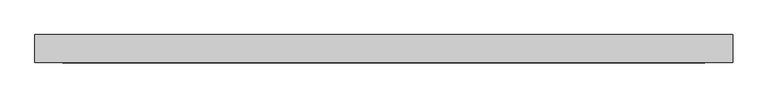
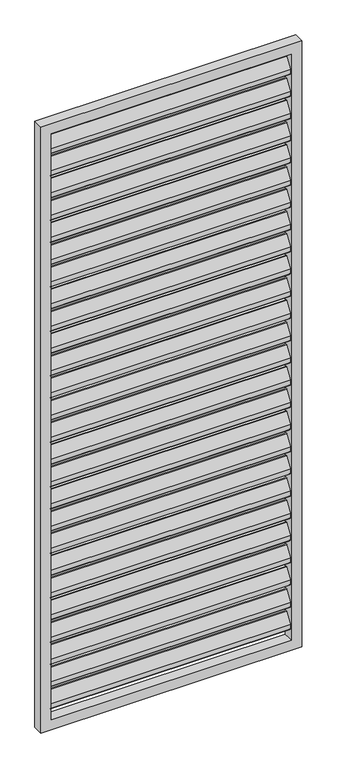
"""IFC4 building model written with IfcOpenShell, lengths in millimetres: proxy geometry."""

from ifc_helpers import new_model, si_unit, point, frame, frame_2d, origin, place, context, project, spatial, polyline, circle_curve, trimmed, segment, composite_curve, outline, extrude, source, transform, mapped, element, save


def generic_models_c7c46cfa(model_context):
    return source(origin(), model_context, "Body", "SweptSolid", [
        extrude(outline(composite_curve([segment(trimmed(circle_curve(frame_2d((12.6675921, 2432.6587719)), 3.0), [point((10.1515804, 2434.292689))], [point((15.6675921, 2432.6587719))], False, "CARTESIAN"), True, "CONTINUOUS"), segment(polyline([(15.6675921, 2432.6587719), (15.6675921, 2414.2979873)]), True, "CONTINUOUS"), segment(trimmed(circle_curve(frame_2d((12.6675921, 2414.2979873)), 3.0), [point((15.6675921, 2414.2979873))], [point((15.1836038, 2412.6640702))], False, "CARTESIAN"), True, "CONTINUOUS"), segment(polyline([(15.1836038, 2412.6640702), (-8.8163962, 2375.707311)]), True, "CONTINUOUS"), segment(trimmed(circle_curve(frame_2d((-11.3324079, 2377.3412281)), 3.0), [point((-8.8163962, 2375.707311))], [point((-14.3324079, 2377.3412281))], False, "CARTESIAN"), True, "CONTINUOUS"), segment(polyline([(-14.3324079, 2377.3412281), (-14.3324079, 2396.5906532), (10.1515804, 2434.292689)]), True, "CONTINUOUS")], self_intersect=False)), frame((-460.0, 0.0, 0.0), z_axis=(1.0, 0.0, 0.0), x_axis=(0.0, 1.0, 0.0)), (0.0, 0.0, 1.0), 920.0),
        extrude(outline(composite_curve([segment(trimmed(circle_curve(frame_2d((12.6675921, 2342.6587719)), 3.0), [point((10.1515804, 2344.292689))], [point((15.6675921, 2342.6587719))], False, "CARTESIAN"), True, "CONTINUOUS"), segment(polyline([(15.6675921, 2342.6587719), (15.6675921, 2324.2979873)]), True, "CONTINUOUS"), segment(trimmed(circle_curve(frame_2d((12.6675921, 2324.2979873)), 3.0), [point((15.6675921, 2324.2979873))], [point((15.1836038, 2322.6640702))], False, "CARTESIAN"), True, "CONTINUOUS"), segment(polyline([(15.1836038, 2322.6640702), (-8.8163962, 2285.707311)]), True, "CONTINUOUS"), segment(trimmed(circle_curve(frame_2d((-11.3324079, 2287.3412281)), 3.0), [point((-8.8163962, 2285.707311))], [point((-14.3324079, 2287.3412281))], False, "CARTESIAN"), True, "CONTINUOUS"), segment(polyline([(-14.3324079, 2287.3412281), (-14.3324079, 2306.5906532), (10.1515804, 2344.292689)]), True, "CONTINUOUS")], self_intersect=False)), frame((-460.0, 0.0, 0.0), z_axis=(1.0, 0.0, 0.0), x_axis=(0.0, 1.0, 0.0)), (0.0, 0.0, 1.0), 920.0),
        extrude(outline(composite_curve([segment(trimmed(circle_curve(frame_2d((12.6675921, 2252.6587719)), 3.0), [point((10.1515804, 2254.292689))], [point((15.6675921, 2252.6587719))], False, "CARTESIAN"), True, "CONTINUOUS"), segment(polyline([(15.6675921, 2252.6587719), (15.6675921, 2234.2979873)]), True, "CONTINUOUS"), segment(trimmed(circle_curve(frame_2d((12.6675921, 2234.2979873)), 3.0), [point((15.6675921, 2234.2979873))], [point((15.1836038, 2232.6640702))], False, "CARTESIAN"), True, "CONTINUOUS"), segment(polyline([(15.1836038, 2232.6640702), (-8.8163962, 2195.707311)]), True, "CONTINUOUS"), segment(trimmed(circle_curve(frame_2d((-11.3324079, 2197.3412281)), 3.0), [point((-8.8163962, 2195.707311))], [point((-14.3324079, 2197.3412281))], False, "CARTESIAN"), True, "CONTINUOUS"), segment(polyline([(-14.3324079, 2197.3412281), (-14.3324079, 2216.5906532), (10.1515804, 2254.292689)]), True, "CONTINUOUS")], self_intersect=False)), frame((-460.0, 0.0, 0.0), z_axis=(1.0, 0.0, 0.0), x_axis=(0.0, 1.0, 0.0)), (0.0, 0.0, 1.0), 920.0),
        extrude(outline(composite_curve([segment(trimmed(circle_curve(frame_2d((12.6675921, 2162.6587719)), 3.0), [point((10.1515804, 2164.292689))], [point((15.6675921, 2162.6587719))], False, "CARTESIAN"), True, "CONTINUOUS"), segment(polyline([(15.6675921, 2162.6587719), (15.6675921, 2144.2979873)]), True, "CONTINUOUS"), segment(trimmed(circle_curve(frame_2d((12.6675921, 2144.2979873)), 3.0), [point((15.6675921, 2144.2979873))], [point((15.1836038, 2142.6640702))], False, "CARTESIAN"), True, "CONTINUOUS"), segment(polyline([(15.1836038, 2142.6640702), (-8.8163962, 2105.707311)]), True, "CONTINUOUS"), segment(trimmed(circle_curve(frame_2d((-11.3324079, 2107.3412281)), 3.0), [point((-8.8163962, 2105.707311))], [point((-14.3324079, 2107.3412281))], False, "CARTESIAN"), True, "CONTINUOUS"), segment(polyline([(-14.3324079, 2107.3412281), (-14.3324079, 2126.5906532), (10.1515804, 2164.292689)]), True, "CONTINUOUS")], self_intersect=False)), frame((-460.0, 0.0, 0.0), z_axis=(1.0, 0.0, 0.0), x_axis=(0.0, 1.0, 0.0)), (0.0, 0.0, 1.0), 920.0),
        extrude(outline(composite_curve([segment(trimmed(circle_curve(frame_2d((12.6675921, 2072.6587719)), 3.0), [point((10.1515804, 2074.292689))], [point((15.6675921, 2072.6587719))], False, "CARTESIAN"), True, "CONTINUOUS"), segment(polyline([(15.6675921, 2072.6587719), (15.6675921, 2054.2979873)]), True, "CONTINUOUS"), segment(trimmed(circle_curve(frame_2d((12.6675921, 2054.2979873)), 3.0), [point((15.6675921, 2054.2979873))], [point((15.1836038, 2052.6640702))], False, "CARTESIAN"), True, "CONTINUOUS"), segment(polyline([(15.1836038, 2052.6640702), (-8.8163962, 2015.707311)]), True, "CONTINUOUS"), segment(trimmed(circle_curve(frame_2d((-11.3324079, 2017.3412281)), 3.0), [point((-8.8163962, 2015.707311))], [point((-14.3324079, 2017.3412281))], False, "CARTESIAN"), True, "CONTINUOUS"), segment(polyline([(-14.3324079, 2017.3412281), (-14.3324079, 2036.5906532), (10.1515804, 2074.292689)]), True, "CONTINUOUS")], self_intersect=False)), frame((-460.0, 0.0, 0.0), z_axis=(1.0, 0.0, 0.0), x_axis=(0.0, 1.0, 0.0)), (0.0, 0.0, 1.0), 920.0),
        extrude(outline(composite_curve([segment(trimmed(circle_curve(frame_2d((12.6675921, 1982.6587719)), 3.0), [point((10.1515804, 1984.292689))], [point((15.6675921, 1982.6587719))], False, "CARTESIAN"), True, "CONTINUOUS"), segment(polyline([(15.6675921, 1982.6587719), (15.6675921, 1964.2979873)]), True, "CONTINUOUS"), segment(trimmed(circle_curve(frame_2d((12.6675921, 1964.2979873)), 3.0), [point((15.6675921, 1964.2979873))], [point((15.1836038, 1962.6640702))], False, "CARTESIAN"), True, "CONTINUOUS"), segment(polyline([(15.1836038, 1962.6640702), (-8.8163962, 1925.707311)]), True, "CONTINUOUS"), segment(trimmed(circle_curve(frame_2d((-11.3324079, 1927.3412281)), 3.0), [point((-8.8163962, 1925.707311))], [point((-14.3324079, 1927.3412281))], False, "CARTESIAN"), True, "CONTINUOUS"), segment(polyline([(-14.3324079, 1927.3412281), (-14.3324079, 1946.5906532), (10.1515804, 1984.292689)]), True, "CONTINUOUS")], self_intersect=False)), frame((-460.0, 0.0, 0.0), z_axis=(1.0, 0.0, 0.0), x_axis=(0.0, 1.0, 0.0)), (0.0, 0.0, 1.0), 920.0),
        extrude(outline(composite_curve([segment(trimmed(circle_curve(frame_2d((12.6675921, 1892.6587719)), 3.0), [point((10.1515804, 1894.292689))], [point((15.6675921, 1892.6587719))], False, "CARTESIAN"), True, "CONTINUOUS"), segment(polyline([(15.6675921, 1892.6587719), (15.6675921, 1874.2979873)]), True, "CONTINUOUS"), segment(trimmed(circle_curve(frame_2d((12.6675921, 1874.2979873)), 3.0), [point((15.6675921, 1874.2979873))], [point((15.1836038, 1872.6640702))], False, "CARTESIAN"), True, "CONTINUOUS"), segment(polyline([(15.1836038, 1872.6640702), (-8.8163962, 1835.707311)]), True, "CONTINUOUS"), segment(trimmed(circle_curve(frame_2d((-11.3324079, 1837.3412281)), 3.0), [point((-8.8163962, 1835.707311))], [point((-14.3324079, 1837.3412281))], False, "CARTESIAN"), True, "CONTINUOUS"), segment(polyline([(-14.3324079, 1837.3412281), (-14.3324079, 1856.5906532), (10.1515804, 1894.292689)]), True, "CONTINUOUS")], self_intersect=False)), frame((-460.0, 0.0, 0.0), z_axis=(1.0, 0.0, 0.0), x_axis=(0.0, 1.0, 0.0)), (0.0, 0.0, 1.0), 920.0),
        extrude(outline(composite_curve([segment(trimmed(circle_curve(frame_2d((12.6675921, 1802.6587719)), 3.0), [point((10.1515804, 1804.292689))], [point((15.6675921, 1802.6587719))], False, "CARTESIAN"), True, "CONTINUOUS"), segment(polyline([(15.6675921, 1802.6587719), (15.6675921, 1784.2979873)]), True, "CONTINUOUS"), segment(trimmed(circle_curve(frame_2d((12.6675921, 1784.2979873)), 3.0), [point((15.6675921, 1784.2979873))], [point((15.1836038, 1782.6640702))], False, "CARTESIAN"), True, "CONTINUOUS"), segment(polyline([(15.1836038, 1782.6640702), (-8.8163962, 1745.707311)]), True, "CONTINUOUS"), segment(trimmed(circle_curve(frame_2d((-11.3324079, 1747.3412281)), 3.0), [point((-8.8163962, 1745.707311))], [point((-14.3324079, 1747.3412281))], False, "CARTESIAN"), True, "CONTINUOUS"), segment(polyline([(-14.3324079, 1747.3412281), (-14.3324079, 1766.5906532), (10.1515804, 1804.292689)]), True, "CONTINUOUS")], self_intersect=False)), frame((-460.0, 0.0, 0.0), z_axis=(1.0, 0.0, 0.0), x_axis=(0.0, 1.0, 0.0)), (0.0, 0.0, 1.0), 920.0),
        extrude(outline(composite_curve([segment(trimmed(circle_curve(frame_2d((12.6675921, 1712.6587719)), 3.0), [point((10.1515804, 1714.292689))], [point((15.6675921, 1712.6587719))], False, "CARTESIAN"), True, "CONTINUOUS"), segment(polyline([(15.6675921, 1712.6587719), (15.6675921, 1694.2979873)]), True, "CONTINUOUS"), segment(trimmed(circle_curve(frame_2d((12.6675921, 1694.2979873)), 3.0), [point((15.6675921, 1694.2979873))], [point((15.1836038, 1692.6640702))], False, "CARTESIAN"), True, "CONTINUOUS"), segment(polyline([(15.1836038, 1692.6640702), (-8.8163962, 1655.707311)]), True, "CONTINUOUS"), segment(trimmed(circle_curve(frame_2d((-11.3324079, 1657.3412281)), 3.0), [point((-8.8163962, 1655.707311))], [point((-14.3324079, 1657.3412281))], False, "CARTESIAN"), True, "CONTINUOUS"), segment(polyline([(-14.3324079, 1657.3412281), (-14.3324079, 1676.5906532), (10.1515804, 1714.292689)]), True, "CONTINUOUS")], self_intersect=False)), frame((-460.0, 0.0, 0.0), z_axis=(1.0, 0.0, 0.0), x_axis=(0.0, 1.0, 0.0)), (0.0, 0.0, 1.0), 920.0),
        extrude(outline(composite_curve([segment(trimmed(circle_curve(frame_2d((12.6675921, 1622.6587719)), 3.0), [point((10.1515804, 1624.292689))], [point((15.6675921, 1622.6587719))], False, "CARTESIAN"), True, "CONTINUOUS"), segment(polyline([(15.6675921, 1622.6587719), (15.6675921, 1604.2979873)]), True, "CONTINUOUS"), segment(trimmed(circle_curve(frame_2d((12.6675921, 1604.2979873)), 3.0), [point((15.6675921, 1604.2979873))], [point((15.1836038, 1602.6640702))], False, "CARTESIAN"), True, "CONTINUOUS"), segment(polyline([(15.1836038, 1602.6640702), (-8.8163962, 1565.707311)]), True, "CONTINUOUS"), segment(trimmed(circle_curve(frame_2d((-11.3324079, 1567.3412281)), 3.0), [point((-8.8163962, 1565.707311))], [point((-14.3324079, 1567.3412281))], False, "CARTESIAN"), True, "CONTINUOUS"), segment(polyline([(-14.3324079, 1567.3412281), (-14.3324079, 1586.5906532), (10.1515804, 1624.292689)]), True, "CONTINUOUS")], self_intersect=False)), frame((-460.0, 0.0, 0.0), z_axis=(1.0, 0.0, 0.0), x_axis=(0.0, 1.0, 0.0)), (0.0, 0.0, 1.0), 920.0),
        extrude(outline(composite_curve([segment(trimmed(circle_curve(frame_2d((12.6675921, 1532.6587719)), 3.0), [point((10.1515804, 1534.292689))], [point((15.6675921, 1532.6587719))], False, "CARTESIAN"), True, "CONTINUOUS"), segment(polyline([(15.6675921, 1532.6587719), (15.6675921, 1514.2979873)]), True, "CONTINUOUS"), segment(trimmed(circle_curve(frame_2d((12.6675921, 1514.2979873)), 3.0), [point((15.6675921, 1514.2979873))], [point((15.1836038, 1512.6640702))], False, "CARTESIAN"), True, "CONTINUOUS"), segment(polyline([(15.1836038, 1512.6640702), (-8.8163962, 1475.707311)]), True, "CONTINUOUS"), segment(trimmed(circle_curve(frame_2d((-11.3324079, 1477.3412281)), 3.0), [point((-8.8163962, 1475.707311))], [point((-14.3324079, 1477.3412281))], False, "CARTESIAN"), True, "CONTINUOUS"), segment(polyline([(-14.3324079, 1477.3412281), (-14.3324079, 1496.5906532), (10.1515804, 1534.292689)]), True, "CONTINUOUS")], self_intersect=False)), frame((-460.0, 0.0, 0.0), z_axis=(1.0, 0.0, 0.0), x_axis=(0.0, 1.0, 0.0)), (0.0, 0.0, 1.0), 920.0),
        extrude(outline(composite_curve([segment(trimmed(circle_curve(frame_2d((12.6675921, 1442.6587719)), 3.0), [point((10.1515804, 1444.292689))], [point((15.6675921, 1442.6587719))], False, "CARTESIAN"), True, "CONTINUOUS"), segment(polyline([(15.6675921, 1442.6587719), (15.6675921, 1424.2979873)]), True, "CONTINUOUS"), segment(trimmed(circle_curve(frame_2d((12.6675921, 1424.2979873)), 3.0), [point((15.6675921, 1424.2979873))], [point((15.1836038, 1422.6640702))], False, "CARTESIAN"), True, "CONTINUOUS"), segment(polyline([(15.1836038, 1422.6640702), (-8.8163962, 1385.707311)]), True, "CONTINUOUS"), segment(trimmed(circle_curve(frame_2d((-11.3324079, 1387.3412281)), 3.0), [point((-8.8163962, 1385.707311))], [point((-14.3324079, 1387.3412281))], False, "CARTESIAN"), True, "CONTINUOUS"), segment(polyline([(-14.3324079, 1387.3412281), (-14.3324079, 1406.5906532), (10.1515804, 1444.292689)]), True, "CONTINUOUS")], self_intersect=False)), frame((-460.0, 0.0, 0.0), z_axis=(1.0, 0.0, 0.0), x_axis=(0.0, 1.0, 0.0)), (0.0, 0.0, 1.0), 920.0),
        extrude(outline(composite_curve([segment(trimmed(circle_curve(frame_2d((12.6675921, 1352.6587719)), 3.0), [point((10.1515804, 1354.292689))], [point((15.6675921, 1352.6587719))], False, "CARTESIAN"), True, "CONTINUOUS"), segment(polyline([(15.6675921, 1352.6587719), (15.6675921, 1334.2979873)]), True, "CONTINUOUS"), segment(trimmed(circle_curve(frame_2d((12.6675921, 1334.2979873)), 3.0), [point((15.6675921, 1334.2979873))], [point((15.1836038, 1332.6640702))], False, "CARTESIAN"), True, "CONTINUOUS"), segment(polyline([(15.1836038, 1332.6640702), (-8.8163962, 1295.707311)]), True, "CONTINUOUS"), segment(trimmed(circle_curve(frame_2d((-11.3324079, 1297.3412281)), 3.0), [point((-8.8163962, 1295.707311))], [point((-14.3324079, 1297.3412281))], False, "CARTESIAN"), True, "CONTINUOUS"), segment(polyline([(-14.3324079, 1297.3412281), (-14.3324079, 1316.5906532), (10.1515804, 1354.292689)]), True, "CONTINUOUS")], self_intersect=False)), frame((-460.0, 0.0, 0.0), z_axis=(1.0, 0.0, 0.0), x_axis=(0.0, 1.0, 0.0)), (0.0, 0.0, 1.0), 920.0),
        extrude(outline(composite_curve([segment(trimmed(circle_curve(frame_2d((12.6675921, 1262.6587719)), 3.0), [point((10.1515804, 1264.292689))], [point((15.6675921, 1262.6587719))], False, "CARTESIAN"), True, "CONTINUOUS"), segment(polyline([(15.6675921, 1262.6587719), (15.6675921, 1244.2979873)]), True, "CONTINUOUS"), segment(trimmed(circle_curve(frame_2d((12.6675921, 1244.2979873)), 3.0), [point((15.6675921, 1244.2979873))], [point((15.1836038, 1242.6640702))], False, "CARTESIAN"), True, "CONTINUOUS"), segment(polyline([(15.1836038, 1242.6640702), (-8.8163962, 1205.707311)]), True, "CONTINUOUS"), segment(trimmed(circle_curve(frame_2d((-11.3324079, 1207.3412281)), 3.0), [point((-8.8163962, 1205.707311))], [point((-14.3324079, 1207.3412281))], False, "CARTESIAN"), True, "CONTINUOUS"), segment(polyline([(-14.3324079, 1207.3412281), (-14.3324079, 1226.5906532), (10.1515804, 1264.292689)]), True, "CONTINUOUS")], self_intersect=False)), frame((-460.0, 0.0, 0.0), z_axis=(1.0, 0.0, 0.0), x_axis=(0.0, 1.0, 0.0)), (0.0, 0.0, 1.0), 920.0),
        extrude(outline(composite_curve([segment(trimmed(circle_curve(frame_2d((12.6675921, 1172.6587719)), 3.0), [point((10.1515804, 1174.292689))], [point((15.6675921, 1172.6587719))], False, "CARTESIAN"), True, "CONTINUOUS"), segment(polyline([(15.6675921, 1172.6587719), (15.6675921, 1154.2979873)]), True, "CONTINUOUS"), segment(trimmed(circle_curve(frame_2d((12.6675921, 1154.2979873)), 3.0), [point((15.6675921, 1154.2979873))], [point((15.1836038, 1152.6640702))], False, "CARTESIAN"), True, "CONTINUOUS"), segment(polyline([(15.1836038, 1152.6640702), (-8.8163962, 1115.707311)]), True, "CONTINUOUS"), segment(trimmed(circle_curve(frame_2d((-11.3324079, 1117.3412281)), 3.0), [point((-8.8163962, 1115.707311))], [point((-14.3324079, 1117.3412281))], False, "CARTESIAN"), True, "CONTINUOUS"), segment(polyline([(-14.3324079, 1117.3412281), (-14.3324079, 1136.5906532), (10.1515804, 1174.292689)]), True, "CONTINUOUS")], self_intersect=False)), frame((-460.0, 0.0, 0.0), z_axis=(1.0, 0.0, 0.0), x_axis=(0.0, 1.0, 0.0)), (0.0, 0.0, 1.0), 920.0),
        extrude(outline(composite_curve([segment(trimmed(circle_curve(frame_2d((12.6675921, 1082.6587719)), 3.0), [point((10.1515804, 1084.292689))], [point((15.6675921, 1082.6587719))], False, "CARTESIAN"), True, "CONTINUOUS"), segment(polyline([(15.6675921, 1082.6587719), (15.6675921, 1064.2979873)]), True, "CONTINUOUS"), segment(trimmed(circle_curve(frame_2d((12.6675921, 1064.2979873)), 3.0), [point((15.6675921, 1064.2979873))], [point((15.1836038, 1062.6640702))], False, "CARTESIAN"), True, "CONTINUOUS"), segment(polyline([(15.1836038, 1062.6640702), (-8.8163962, 1025.707311)]), True, "CONTINUOUS"), segment(trimmed(circle_curve(frame_2d((-11.3324079, 1027.3412281)), 3.0), [point((-8.8163962, 1025.707311))], [point((-14.3324079, 1027.3412281))], False, "CARTESIAN"), True, "CONTINUOUS"), segment(polyline([(-14.3324079, 1027.3412281), (-14.3324079, 1046.5906532), (10.1515804, 1084.292689)]), True, "CONTINUOUS")], self_intersect=False)), frame((-460.0, 0.0, 0.0), z_axis=(1.0, 0.0, 0.0), x_axis=(0.0, 1.0, 0.0)), (0.0, 0.0, 1.0), 920.0),
        extrude(outline(composite_curve([segment(trimmed(circle_curve(frame_2d((12.6675921, 992.6587719)), 3.0), [point((10.1515804, 994.292689))], [point((15.6675921, 992.6587719))], False, "CARTESIAN"), True, "CONTINUOUS"), segment(polyline([(15.6675921, 992.6587719), (15.6675921, 974.2979873)]), True, "CONTINUOUS"), segment(trimmed(circle_curve(frame_2d((12.6675921, 974.2979873)), 3.0), [point((15.6675921, 974.2979873))], [point((15.1836038, 972.6640702))], False, "CARTESIAN"), True, "CONTINUOUS"), segment(polyline([(15.1836038, 972.6640702), (-8.8163962, 935.707311)]), True, "CONTINUOUS"), segment(trimmed(circle_curve(frame_2d((-11.3324079, 937.3412281)), 3.0), [point((-8.8163962, 935.707311))], [point((-14.3324079, 937.3412281))], False, "CARTESIAN"), True, "CONTINUOUS"), segment(polyline([(-14.3324079, 937.3412281), (-14.3324079, 956.5906532), (10.1515804, 994.292689)]), True, "CONTINUOUS")], self_intersect=False)), frame((-460.0, 0.0, 0.0), z_axis=(1.0, 0.0, 0.0), x_axis=(0.0, 1.0, 0.0)), (0.0, 0.0, 1.0), 920.0),
        extrude(outline(composite_curve([segment(trimmed(circle_curve(frame_2d((12.6675921, 902.6587719)), 3.0), [point((10.1515804, 904.292689))], [point((15.6675921, 902.6587719))], False, "CARTESIAN"), True, "CONTINUOUS"), segment(polyline([(15.6675921, 902.6587719), (15.6675921, 884.2979873)]), True, "CONTINUOUS"), segment(trimmed(circle_curve(frame_2d((12.6675921, 884.2979873)), 3.0), [point((15.6675921, 884.2979873))], [point((15.1836038, 882.6640702))], False, "CARTESIAN"), True, "CONTINUOUS"), segment(polyline([(15.1836038, 882.6640702), (-8.8163962, 845.707311)]), True, "CONTINUOUS"), segment(trimmed(circle_curve(frame_2d((-11.3324079, 847.3412281)), 3.0), [point((-8.8163962, 845.707311))], [point((-14.3324079, 847.3412281))], False, "CARTESIAN"), True, "CONTINUOUS"), segment(polyline([(-14.3324079, 847.3412281), (-14.3324079, 866.5906532), (10.1515804, 904.292689)]), True, "CONTINUOUS")], self_intersect=False)), frame((-460.0, 0.0, 0.0), z_axis=(1.0, 0.0, 0.0), x_axis=(0.0, 1.0, 0.0)), (0.0, 0.0, 1.0), 920.0),
        extrude(outline(composite_curve([segment(trimmed(circle_curve(frame_2d((12.6675921, 812.6587719)), 3.0), [point((10.1515804, 814.292689))], [point((15.6675921, 812.6587719))], False, "CARTESIAN"), True, "CONTINUOUS"), segment(polyline([(15.6675921, 812.6587719), (15.6675921, 794.2979873)]), True, "CONTINUOUS"), segment(trimmed(circle_curve(frame_2d((12.6675921, 794.2979873)), 3.0), [point((15.6675921, 794.2979873))], [point((15.1836038, 792.6640702))], False, "CARTESIAN"), True, "CONTINUOUS"), segment(polyline([(15.1836038, 792.6640702), (-8.8163962, 755.707311)]), True, "CONTINUOUS"), segment(trimmed(circle_curve(frame_2d((-11.3324079, 757.3412281)), 3.0), [point((-8.8163962, 755.707311))], [point((-14.3324079, 757.3412281))], False, "CARTESIAN"), True, "CONTINUOUS"), segment(polyline([(-14.3324079, 757.3412281), (-14.3324079, 776.5906532), (10.1515804, 814.292689)]), True, "CONTINUOUS")], self_intersect=False)), frame((-460.0, 0.0, 0.0), z_axis=(1.0, 0.0, 0.0), x_axis=(0.0, 1.0, 0.0)), (0.0, 0.0, 1.0), 920.0),
        extrude(outline(composite_curve([segment(trimmed(circle_curve(frame_2d((12.6675921, 722.6587719)), 3.0), [point((10.1515804, 724.292689))], [point((15.6675921, 722.6587719))], False, "CARTESIAN"), True, "CONTINUOUS"), segment(polyline([(15.6675921, 722.6587719), (15.6675921, 704.2979873)]), True, "CONTINUOUS"), segment(trimmed(circle_curve(frame_2d((12.6675921, 704.2979873)), 3.0), [point((15.6675921, 704.2979873))], [point((15.1836038, 702.6640702))], False, "CARTESIAN"), True, "CONTINUOUS"), segment(polyline([(15.1836038, 702.6640702), (-8.8163962, 665.707311)]), True, "CONTINUOUS"), segment(trimmed(circle_curve(frame_2d((-11.3324079, 667.3412281)), 3.0), [point((-8.8163962, 665.707311))], [point((-14.3324079, 667.3412281))], False, "CARTESIAN"), True, "CONTINUOUS"), segment(polyline([(-14.3324079, 667.3412281), (-14.3324079, 686.5906532), (10.1515804, 724.292689)]), True, "CONTINUOUS")], self_intersect=False)), frame((-460.0, 0.0, 0.0), z_axis=(1.0, 0.0, 0.0), x_axis=(0.0, 1.0, 0.0)), (0.0, 0.0, 1.0), 920.0),
        extrude(outline(composite_curve([segment(trimmed(circle_curve(frame_2d((12.6675921, 632.6587719)), 3.0), [point((10.1515804, 634.292689))], [point((15.6675921, 632.6587719))], False, "CARTESIAN"), True, "CONTINUOUS"), segment(polyline([(15.6675921, 632.6587719), (15.6675921, 614.2979873)]), True, "CONTINUOUS"), segment(trimmed(circle_curve(frame_2d((12.6675921, 614.2979873)), 3.0), [point((15.6675921, 614.2979873))], [point((15.1836038, 612.6640702))], False, "CARTESIAN"), True, "CONTINUOUS"), segment(polyline([(15.1836038, 612.6640702), (-8.8163962, 575.707311)]), True, "CONTINUOUS"), segment(trimmed(circle_curve(frame_2d((-11.3324079, 577.3412281)), 3.0), [point((-8.8163962, 575.707311))], [point((-14.3324079, 577.3412281))], False, "CARTESIAN"), True, "CONTINUOUS"), segment(polyline([(-14.3324079, 577.3412281), (-14.3324079, 596.5906532), (10.1515804, 634.292689)]), True, "CONTINUOUS")], self_intersect=False)), frame((-460.0, 0.0, 0.0), z_axis=(1.0, 0.0, 0.0), x_axis=(0.0, 1.0, 0.0)), (0.0, 0.0, 1.0), 920.0),
        extrude(outline(composite_curve([segment(trimmed(circle_curve(frame_2d((12.6675921, 542.6587719)), 3.0), [point((10.1515804, 544.292689))], [point((15.6675921, 542.6587719))], False, "CARTESIAN"), True, "CONTINUOUS"), segment(polyline([(15.6675921, 542.6587719), (15.6675921, 524.2979873)]), True, "CONTINUOUS"), segment(trimmed(circle_curve(frame_2d((12.6675921, 524.2979873)), 3.0), [point((15.6675921, 524.2979873))], [point((15.1836038, 522.6640702))], False, "CARTESIAN"), True, "CONTINUOUS"), segment(polyline([(15.1836038, 522.6640702), (-8.8163962, 485.707311)]), True, "CONTINUOUS"), segment(trimmed(circle_curve(frame_2d((-11.3324079, 487.3412281)), 3.0), [point((-8.8163962, 485.707311))], [point((-14.3324079, 487.3412281))], False, "CARTESIAN"), True, "CONTINUOUS"), segment(polyline([(-14.3324079, 487.3412281), (-14.3324079, 506.5906532), (10.1515804, 544.292689)]), True, "CONTINUOUS")], self_intersect=False)), frame((-460.0, 0.0, 0.0), z_axis=(1.0, 0.0, 0.0), x_axis=(0.0, 1.0, 0.0)), (0.0, 0.0, 1.0), 920.0),
        extrude(outline(composite_curve([segment(trimmed(circle_curve(frame_2d((12.6675921, 452.6587719)), 3.0), [point((10.1515804, 454.292689))], [point((15.6675921, 452.6587719))], False, "CARTESIAN"), True, "CONTINUOUS"), segment(polyline([(15.6675921, 452.6587719), (15.6675921, 434.2979873)]), True, "CONTINUOUS"), segment(trimmed(circle_curve(frame_2d((12.6675921, 434.2979873)), 3.0), [point((15.6675921, 434.2979873))], [point((15.1836038, 432.6640702))], False, "CARTESIAN"), True, "CONTINUOUS"), segment(polyline([(15.1836038, 432.6640702), (-8.8163962, 395.707311)]), True, "CONTINUOUS"), segment(trimmed(circle_curve(frame_2d((-11.3324079, 397.3412281)), 3.0), [point((-8.8163962, 395.707311))], [point((-14.3324079, 397.3412281))], False, "CARTESIAN"), True, "CONTINUOUS"), segment(polyline([(-14.3324079, 397.3412281), (-14.3324079, 416.5906532), (10.1515804, 454.292689)]), True, "CONTINUOUS")], self_intersect=False)), frame((-460.0, 0.0, 0.0), z_axis=(1.0, 0.0, 0.0), x_axis=(0.0, 1.0, 0.0)), (0.0, 0.0, 1.0), 920.0),
        extrude(outline(composite_curve([segment(trimmed(circle_curve(frame_2d((12.6675921, 362.6587719)), 3.0), [point((10.1515804, 364.292689))], [point((15.6675921, 362.6587719))], False, "CARTESIAN"), True, "CONTINUOUS"), segment(polyline([(15.6675921, 362.6587719), (15.6675921, 344.2979873)]), True, "CONTINUOUS"), segment(trimmed(circle_curve(frame_2d((12.6675921, 344.2979873)), 3.0), [point((15.6675921, 344.2979873))], [point((15.1836038, 342.6640702))], False, "CARTESIAN"), True, "CONTINUOUS"), segment(polyline([(15.1836038, 342.6640702), (-8.8163962, 305.707311)]), True, "CONTINUOUS"), segment(trimmed(circle_curve(frame_2d((-11.3324079, 307.3412281)), 3.0), [point((-8.8163962, 305.707311))], [point((-14.3324079, 307.3412281))], False, "CARTESIAN"), True, "CONTINUOUS"), segment(polyline([(-14.3324079, 307.3412281), (-14.3324079, 326.5906532), (10.1515804, 364.292689)]), True, "CONTINUOUS")], self_intersect=False)), frame((-460.0, 0.0, 0.0), z_axis=(1.0, 0.0, 0.0), x_axis=(0.0, 1.0, 0.0)), (0.0, 0.0, 1.0), 920.0),
        extrude(outline(composite_curve([segment(trimmed(circle_curve(frame_2d((12.6675921, 272.6587719)), 3.0), [point((10.1515804, 274.292689))], [point((15.6675921, 272.6587719))], False, "CARTESIAN"), True, "CONTINUOUS"), segment(polyline([(15.6675921, 272.6587719), (15.6675921, 254.2979873)]), True, "CONTINUOUS"), segment(trimmed(circle_curve(frame_2d((12.6675921, 254.2979873)), 3.0), [point((15.6675921, 254.2979873))], [point((15.1836038, 252.6640702))], False, "CARTESIAN"), True, "CONTINUOUS"), segment(polyline([(15.1836038, 252.6640702), (-8.8163962, 215.707311)]), True, "CONTINUOUS"), segment(trimmed(circle_curve(frame_2d((-11.3324079, 217.3412281)), 3.0), [point((-8.8163962, 215.707311))], [point((-14.3324079, 217.3412281))], False, "CARTESIAN"), True, "CONTINUOUS"), segment(polyline([(-14.3324079, 217.3412281), (-14.3324079, 236.5906532), (10.1515804, 274.292689)]), True, "CONTINUOUS")], self_intersect=False)), frame((-460.0, 0.0, 0.0), z_axis=(1.0, 0.0, 0.0), x_axis=(0.0, 1.0, 0.0)), (0.0, 0.0, 1.0), 920.0),
        extrude(outline(composite_curve([segment(trimmed(circle_curve(frame_2d((12.6675921, 182.6587719)), 3.0), [point((10.1515804, 184.292689))], [point((15.6675921, 182.6587719))], False, "CARTESIAN"), True, "CONTINUOUS"), segment(polyline([(15.6675921, 182.6587719), (15.6675921, 164.2979873)]), True, "CONTINUOUS"), segment(trimmed(circle_curve(frame_2d((12.6675921, 164.2979873)), 3.0), [point((15.6675921, 164.2979873))], [point((15.1836038, 162.6640702))], False, "CARTESIAN"), True, "CONTINUOUS"), segment(polyline([(15.1836038, 162.6640702), (-8.8163962, 125.707311)]), True, "CONTINUOUS"), segment(trimmed(circle_curve(frame_2d((-11.3324079, 127.3412281)), 3.0), [point((-8.8163962, 125.707311))], [point((-14.3324079, 127.3412281))], False, "CARTESIAN"), True, "CONTINUOUS"), segment(polyline([(-14.3324079, 127.3412281), (-14.3324079, 146.5906532), (10.1515804, 184.292689)]), True, "CONTINUOUS")], self_intersect=False)), frame((-460.0, 0.0, 0.0), z_axis=(1.0, 0.0, 0.0), x_axis=(0.0, 1.0, 0.0)), (0.0, 0.0, 1.0), 920.0),
        extrude(outline(polyline([(2500.0, -500.0), (45.0, -500.0), (45.0, 500.0), (2500.0, 500.0), (2500.0, -500.0)]), holes=[polyline([(2460.0, 460.0), (85.0, 460.0), (85.0, -460.0), (2460.0, -460.0), (2460.0, 460.0)])]), frame((0.0, -20.0, 0.0), z_axis=(0.0, 1.0, 0.0), x_axis=(0.0, 0.0, 1.0)), (0.0, 0.0, 1.0), 40.0),
    ])


if __name__ == "__main__":
    model = new_model("IFC4")
    model_context = context("Model", 3, world=origin())
    ifc_project = project(units=[si_unit("LENGTHUNIT", "METRE", prefix="MILLI")], contexts=[model_context])
    site = spatial("IfcSite", under=ifc_project)
    building = spatial("IfcBuilding", under=site)
    placement = place(None, origin())
    generic_models_shape = generic_models_c7c46cfa(model_context)
    element("IfcBuildingElementProxy", 1, Name="Generic Models", at=placement, inside=building, context=model_context, shape_type="MappedRepresentation", body=[
        mapped(generic_models_shape, transform((0.0, 0.0, 0.0), x_axis=(1.0, 0.0, 0.0), y_axis=(0.0, 1.0, 0.0), z_axis=(0.0, 0.0, 1.0))),
    ])
    save(model, "model.ifc")
